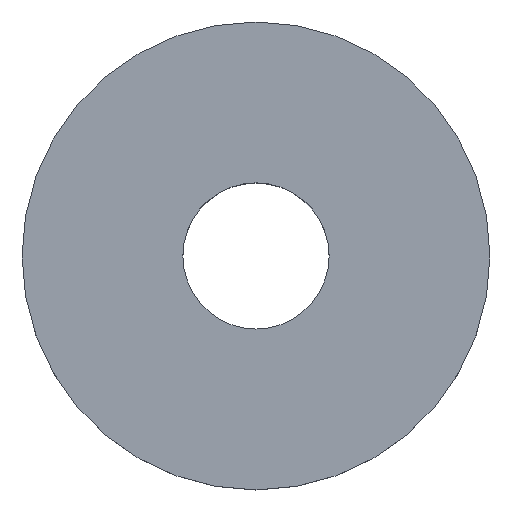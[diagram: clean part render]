
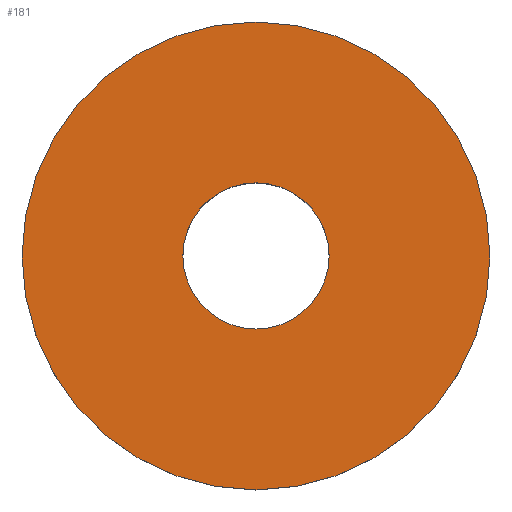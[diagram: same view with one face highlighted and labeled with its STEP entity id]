
A CAD part, top view. The second image highlights one B-rep face of the part: STEP entity #181.
In plain terms, the highlighted planar face has unit normal (0, 0, 1).
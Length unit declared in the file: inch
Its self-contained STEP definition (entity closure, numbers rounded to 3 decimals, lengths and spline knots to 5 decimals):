
#147=CARTESIAN_POINT('',(1.0,0.0,0.));
#148=VERTEX_POINT('',#147);
#149=CARTESIAN_POINT('',(0.0,0.0,0.));
#150=DIRECTION('',(0.0,0.0,1.0));
#151=DIRECTION('',(1.0,0.0,0.0));
#152=AXIS2_PLACEMENT_3D('',#149,#150,#151);
#153=CIRCLE('',#152,1.0);
#154=EDGE_CURVE('',#148,#148,#153,.T.);
#162=CARTESIAN_POINT('',(0.65625,0.0,0.));
#163=DIRECTION('',(0.0,0.0,1.0));
#164=DIRECTION('',(1.0,0.0,0.0));
#165=AXIS2_PLACEMENT_3D('',#162,#163,#164);
#166=PLANE('',#165);
#167=ORIENTED_EDGE('',*,*,#154,.T.);
#168=EDGE_LOOP('',(#167));
#169=FACE_OUTER_BOUND('',#168,.T.);
#170=CARTESIAN_POINT('',(0.3125,0.0,0.));
#171=VERTEX_POINT('',#170);
#172=CARTESIAN_POINT('',(0.0,0.0,0.0));
#173=DIRECTION('',(0.0,0.0,1.0));
#174=DIRECTION('',(1.0,0.0,0.0));
#175=AXIS2_PLACEMENT_3D('',#172,#173,#174);
#176=CIRCLE('',#175,0.3125);
#177=EDGE_CURVE('',#171,#171,#176,.T.);
#178=ORIENTED_EDGE('',*,*,#177,.F.);
#179=EDGE_LOOP('',(#178));
#180=FACE_BOUND('',#179,.T.);
#181=ADVANCED_FACE('',(#169,#180),#166,.T.);
